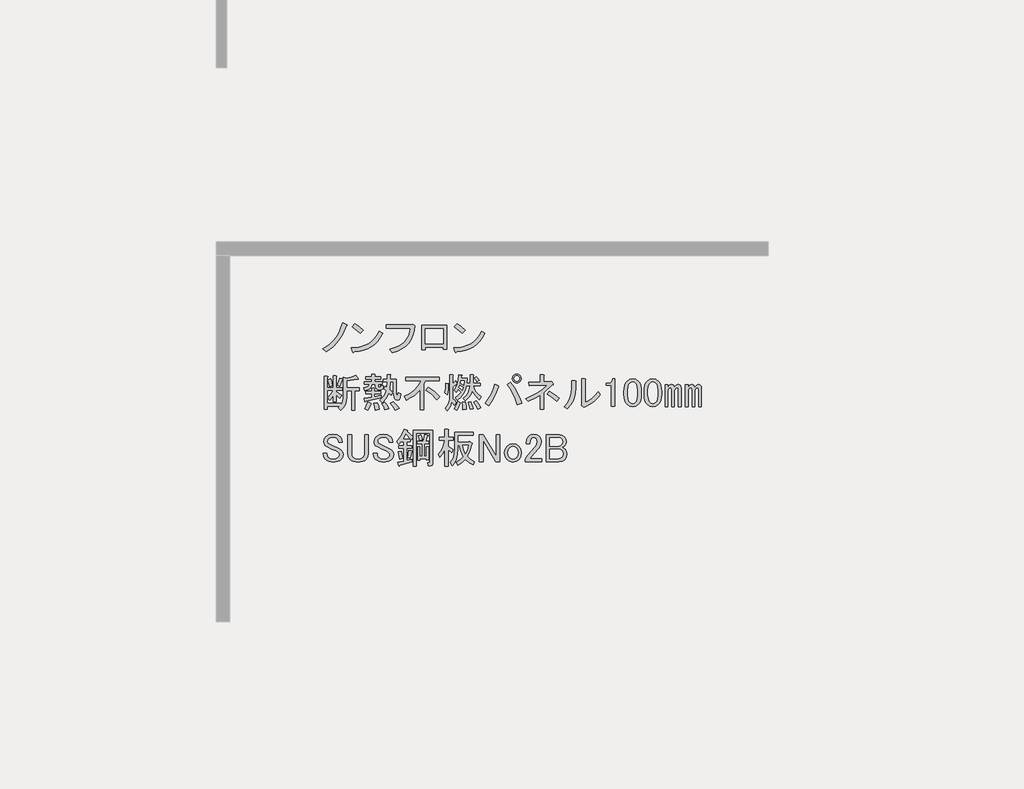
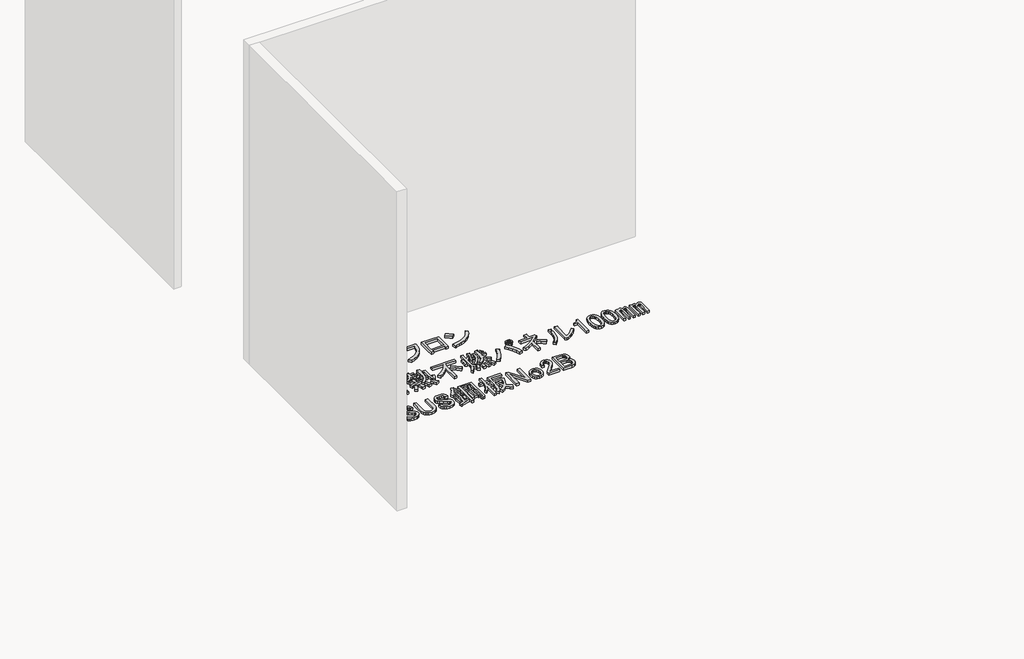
# One storey, part 25 of 117: 1 proxy.
"""IFC4 building model written with IfcOpenShell, lengths in millimetres."""

import ifcopenshell
import ifcopenshell.guid

model = None  # the IFC model being written
_history = None  # IfcOwnerHistory: only IFC2X3 demands one
_inside = {}  # id of a spatial element -> (the spatial element, [elements in it])
_under = {}  # id of a project, library or spatial element -> (it, [spatial elements below it])
_declared = {}  # id of a project -> (the project, [libraries it declares])
_typed = {}  # id of a type object -> (the type object, [elements of that type])
_made_of = {}  # id of a material, layer set ... -> (it, [elements and type objects made of it])


def new_model(schema):
    """Start an empty IFC model of exactly this schema.

    Asked for "IFC4X3", IfcOpenShell would pick the latest addendum, in which some entities
    have other attributes; the version numbers below select the first issue.
    IFC2X3 requires an IfcOwnerHistory on every rooted entity: one is made here for all.
    """
    global model, _history
    if schema == "IFC4X3":
        model = ifcopenshell.file(schema_version=(4, 3, 0, 0))
    else:
        model = ifcopenshell.file(schema=schema)
    _inside.clear()
    _under.clear()
    _declared.clear()
    _typed.clear()
    _made_of.clear()
    _history = None
    if model.schema == "IFC2X3":
        org = make("IfcOrganization", Name="unknown")
        user = make(
            "IfcPersonAndOrganization",
            ThePerson=make("IfcPerson", FamilyName="unknown"),
            TheOrganization=org,
        )
        app = make(
            "IfcApplication",
            ApplicationDeveloper=org,
            Version="unknown",
            ApplicationFullName="unknown",
            ApplicationIdentifier="unknown",
        )
        _history = make(
            "IfcOwnerHistory",
            OwningUser=user,
            OwningApplication=app,
            ChangeAction="ADDED",
            CreationDate=0,
        )
    return model


def make(cls, **values):
    """One entity of the class cls with the attributes given. An attribute that is None is left unset."""
    return model.create_entity(
        cls, **{name: value for name, value in values.items() if value is not None}
    )


def rooted(cls, **values):
    """An entity with a GlobalId (a new one), such as an element, a storey or a relation."""
    return make(cls, GlobalId=ifcopenshell.guid.new(), OwnerHistory=_history, **values)


def si_unit(unit_type, name, prefix=None):
    """IfcSIUnit, for example si_unit("LENGTHUNIT", "METRE", prefix="MILLI")."""
    return make("IfcSIUnit", UnitType=unit_type, Prefix=prefix, Name=name)


def assignment(units):
    """IfcUnitAssignment: the units of a project."""
    return None if units is None else make("IfcUnitAssignment", Units=units)


def point(xyz):
    """IfcCartesianPoint."""
    return None if xyz is None else make("IfcCartesianPoint", Coordinates=xyz)


def direction(xyz):
    """IfcDirection."""
    return None if xyz is None else make("IfcDirection", DirectionRatios=xyz)


def frame(location, z_axis=None, x_axis=None):
    """IfcAxis2Placement3D, a coordinate frame: its origin and axes. An axis left out is left unset."""
    return make(
        "IfcAxis2Placement3D",
        Location=point(location),
        Axis=direction(z_axis),
        RefDirection=direction(x_axis),
    )


def origin():
    """The frame at (0, 0, 0) with its axes left unset."""
    return frame((0.0, 0.0, 0.0))


def place(relative_to, where):
    """IfcLocalPlacement: puts the frame where relative to a parent placement (None: the world)."""
    return make(
        "IfcLocalPlacement", PlacementRelTo=relative_to, RelativePlacement=where
    )


def context(
    kind, dimensions, precision=None, world=None, true_north=None, identifier=None
):
    """IfcGeometricRepresentationContext, for example the 3D "Model" context."""
    return make(
        "IfcGeometricRepresentationContext",
        ContextIdentifier=identifier,
        ContextType=kind,
        CoordinateSpaceDimension=dimensions,
        Precision=precision,
        WorldCoordinateSystem=world,
        TrueNorth=true_north,
    )


def project(units=None, contexts=None):
    """IfcProject with its units and contexts."""
    return rooted(
        "IfcProject",
        Name="project",
        RepresentationContexts=contexts,
        UnitsInContext=assignment(units),
    )


def spatial(cls, under=None, at=None, **own):
    """A site, building, storey or space (cls), placed at a placement, below another one or the project."""
    s = rooted(cls, ObjectPlacement=at, **own)
    if under is not None:
        _under.setdefault(under.id(), (under, []))[1].append(s)
    return s


def polyline(points):
    """IfcPolyline through the points."""
    return make("IfcPolyline", Points=[point(p) for p in points])


def outline(outer, holes=None, kind="AREA"):
    """IfcArbitraryClosedProfileDef: a profile drawn as a closed curve; with holes, ...WithVoids."""
    if holes is None:
        return make("IfcArbitraryClosedProfileDef", ProfileType=kind, OuterCurve=outer)
    return make(
        "IfcArbitraryProfileDefWithVoids",
        ProfileType=kind,
        OuterCurve=outer,
        InnerCurves=holes,
    )


def extrude(swept, where, along, depth):
    """IfcExtrudedAreaSolid: the profile swept, set in the frame where, extruded along a direction by depth."""
    return make(
        "IfcExtrudedAreaSolid",
        SweptArea=swept,
        Position=where,
        ExtrudedDirection=direction(along),
        Depth=depth,
    )


def shape(context_of_items, identifier, shape_type, items):
    """IfcShapeRepresentation: the items that make up one representation, for example the "Body"."""
    return make(
        "IfcShapeRepresentation",
        ContextOfItems=context_of_items,
        RepresentationIdentifier=identifier,
        RepresentationType=shape_type,
        Items=items,
    )


def made_of(thing, what):
    """Note that an element or type object is made of a material, layer set ...; save() writes the relation."""
    if what is not None:
        _made_of.setdefault(what.id(), (what, []))[1].append(thing)
    return thing


def element(
    cls,
    number,
    at=None,
    inside=None,
    cuts=None,
    type_object=None,
    material=None,
    context=None,
    identifier="Body",
    shape_type=None,
    held_by="IfcProductDefinitionShape",
    body=None,
    shapes=None,
    **own,
):
    """One element of the class cls, such as IfcWall. Its Tag is "e" and its number.

    at: its placement. inside: the storey or other place that contains it. cuts: it is an
    opening in that element (IfcRelVoidsElement). A single representation is given by context,
    identifier, shape_type and body (its items); several are given by shapes. held_by: the class
    of the entity that holds the representations. save() writes the other relations.
    """
    e = rooted(cls, Tag="e%d" % number, ObjectPlacement=at, **own)
    if body is not None:
        shapes = [shape(context, identifier, shape_type, body)]
    if shapes is not None:
        e.Representation = make(held_by, Representations=shapes)
    if inside is not None:
        _inside.setdefault(inside.id(), (inside, []))[1].append(e)
    if cuts is not None:
        rooted(
            "IfcRelVoidsElement", RelatingBuildingElement=cuts, RelatedOpeningElement=e
        )
    if type_object is not None:
        _typed.setdefault(type_object.id(), (type_object, []))[1].append(e)
    return made_of(e, material)


def aggregate(whole, parts):
    """IfcRelAggregates: a whole, such as a stair, and the parts it consists of."""
    return rooted("IfcRelAggregates", RelatingObject=whole, RelatedObjects=parts)


def save(model, path):
    """Write the relations noted so far, then the file.

    IfcRelAggregates (storeys below a building ...), IfcRelContainedInSpatialStructure (elements
    in a storey), IfcRelDefinesByType, IfcRelAssociatesMaterial and IfcRelDeclares: one each for
    every whole, place, type object, material and project.
    """
    for whole, parts in _under.values():
        aggregate(whole, parts)
    for where, things in _inside.values():
        rooted(
            "IfcRelContainedInSpatialStructure",
            RelatedElements=things,
            RelatingStructure=where,
        )
    for kind, things in _typed.values():
        rooted("IfcRelDefinesByType", RelatedObjects=things, RelatingType=kind)
    for what, things in _made_of.values():
        rooted("IfcRelAssociatesMaterial", RelatedObjects=things, RelatingMaterial=what)
    for by, libraries in _declared.values():
        rooted("IfcRelDeclares", RelatingContext=by, RelatedDefinitions=libraries)
    model.write(path)


model = new_model("IFC4")

# Units and contexts
model_context = context("Model", 3, world=origin())
ifc_project = project(units=[si_unit("LENGTHUNIT", "METRE", prefix="MILLI")], contexts=[model_context])

# Site, building, storey
site = spatial("IfcSite", under=ifc_project)
building = spatial("IfcBuilding", under=site)
storey = spatial("IfcBuildingStorey", under=building, Name="レベル 1", Elevation=500.0)

# Proxy
placement = place(None, origin())
element("IfcBuildingElementProxy", 1, Name="200㎜\u3000MS Pゴシック", ObjectType="200㎜\u3000MS Pゴシック", at=placement, inside=storey, context=model_context, shape_type="SweptSolid", body=[
    extrude(outline(polyline([(8943.6706985, -32607.0496882), (8918.0952502, -32666.8215225), (8889.646156, -32712.7998566), (8847.9782907, -32758.2034615), (8798.8389462, -32795.560858), (8771.2519457, -32773.7211493), (8818.9544673, -32743.2605029), (8858.6107805, -32704.7536481), (8875.9963381, -32680.8305462), (8891.3703435, -32652.7406577), (8904.7327969, -32620.4839827), (8916.0836981, -32584.0605212), (8947.1190736, -32597.8540214), (8950.2800841, -32602.4518548), (8943.6706985, -32607.0496882)])), frame((0.0, 0.0, 500.0), z_axis=(0.0, 0.0, 1.0), x_axis=(1.0, 0.0, 0.0)), (0.0, 0.0, 1.0), 25.0),
    extrude(outline(polyline([(9043.3977052, -32662.2236891), (8984.7753292, -32615.0958967), (9004.3161212, -32590.9572713), (9031.6157571, -32610.7854279), (9065.2374138, -32640.3839804), (9043.3977052, -32662.2236891)])), frame((0.0, 0.0, 500.0), z_axis=(0.0, 0.0, 1.0), x_axis=(1.0, 0.0, 0.0)), (0.0, 0.0, 1.0), 25.0),
    extrude(outline(polyline([(9205.4713328, -32662.2236891), (9188.947869, -32691.965924), (9169.8381239, -32717.9724192), (9148.1420975, -32740.2431748), (9123.8597898, -32758.7781907), (9096.9912008, -32773.577467), (9067.5363306, -32784.6410036), (9035.495179, -32791.9688006), (9000.8677461, -32795.560858), (8995.1204544, -32803.6070664), (8989.3731626, -32797.8597747), (8980.1774958, -32767.9738575), (9016.0082679, -32765.2977748), (9048.7857912, -32758.9937141), (9078.5100658, -32749.0616756), (9105.1810916, -32735.5016591), (9128.7988687, -32718.3136646), (9149.363397, -32697.4976923), (9166.8746766, -32673.053742), (9181.3327074, -32644.9818138), (9205.4713328, -32662.2236891)])), frame((0.0, 0.0, 500.0), z_axis=(0.0, 0.0, 1.0), x_axis=(1.0, 0.0, 0.0)), (0.0, 0.0, 1.0), 25.0),
    extrude(outline(polyline([(9256.2314136, -32777.1695243), (9290.014713, -32767.4889298), (9319.5234641, -32755.1142922), (9344.757667, -32740.0456116), (9365.7173217, -32722.282888), (9382.402428, -32701.8261214), (9394.8129862, -32678.6753118), (9402.9489961, -32652.8304591), (9406.8104577, -32624.2915635), (9234.3917049, -32624.2915635), (9234.3917049, -32599.0034798), (9409.1093744, -32599.0034798), (9425.2017914, -32595.5551047), (9437.8458332, -32607.0496882), (9434.325617, -32643.5449909), (9426.0638851, -32676.5919185), (9413.0606375, -32706.1904711), (9395.3158742, -32732.3406486), (9372.8295952, -32755.042451), (9345.6018005, -32774.2958784), (9313.6324901, -32790.1009308), (9276.921664, -32802.4576081), (9256.2314136, -32777.1695243)])), frame((0.0, 0.0, 500.0), z_axis=(0.0, 0.0, 1.0), x_axis=(1.0, 0.0, 0.0)), (0.0, 0.0, 1.0), 25.0),
    extrude(outline(polyline([(9670.955987, -32776.020066), (9644.5184449, -32776.020066), (9644.5184449, -32763.3760241), (9516.9285679, -32763.3760241), (9516.9285679, -32781.7673577), (9490.4910258, -32781.7673577), (9490.4910258, -32602.4518548), (9670.955987, -32602.4518548), (9670.955987, -32776.020066)]), holes=[polyline([(9516.9285679, -32627.7399386), (9516.9285679, -32738.0879404), (9644.5184449, -32738.0879404), (9644.5184449, -32627.7399386), (9516.9285679, -32627.7399386)])]), frame((0.0, 0.0, 500.0), z_axis=(0.0, 0.0, 1.0), x_axis=(1.0, 0.0, 0.0)), (0.0, 0.0, 1.0), 25.0),
    extrude(outline(polyline([(9947.0099049, -32662.2236891), (9930.4864411, -32691.965924), (9911.376696, -32717.9724192), (9889.6806696, -32740.2431748), (9865.3983619, -32758.7781907), (9838.5297729, -32773.577467), (9809.0749026, -32784.6410036), (9777.0337511, -32791.9688006), (9742.4063182, -32795.560858), (9736.6590264, -32803.6070664), (9730.9117347, -32797.8597747), (9721.7160679, -32767.9738575), (9757.5468399, -32765.2977748), (9790.3243633, -32758.9937141), (9820.0486378, -32749.0616756), (9846.7196637, -32735.5016591), (9870.3374407, -32718.3136646), (9890.9019691, -32697.4976923), (9908.4132486, -32673.053742), (9922.8712795, -32644.9818138), (9947.0099049, -32662.2236891)])), frame((0.0, 0.0, 500.0), z_axis=(0.0, 0.0, 1.0), x_axis=(1.0, 0.0, 0.0)), (0.0, 0.0, 1.0), 25.0),
    extrude(outline(polyline([(9784.9362772, -32662.2236891), (9726.3139013, -32615.0958967), (9745.8546933, -32590.9572713), (9773.1543291, -32610.7854279), (9806.7759859, -32640.3839804), (9784.9362772, -32662.2236891)])), frame((0.0, 0.0, 500.0), z_axis=(0.0, 0.0, 1.0), x_axis=(1.0, 0.0, 0.0)), (0.0, 0.0, 1.0), 25.0),
    extrude(outline(polyline([(8877.0021141, -33039.2345221), (8894.2439894, -32986.3594379), (8914.9342397, -32992.1067296), (8916.6584273, -32995.2677401), (8912.635323, -32997.8540214), (8895.3934477, -33046.1312722), (8877.0021141, -33039.2345221)])), frame((0.0, 0.0, 500.0), z_axis=(0.0, 0.0, 1.0), x_axis=(1.0, 0.0, 0.0)), (0.0, 0.0, 1.0), 25.0),
    extrude(outline(polyline([(9031.0295333, -32990.9572713), (9029.3053458, -32995.5551047), (9021.8338665, -32993.256188), (8944.8201569, -33005.9002299), (8944.8201569, -33055.326939), (9036.7768251, -33055.326939), (9036.7768251, -33077.1666477), (9005.7414495, -33077.1666477), (9005.7414495, -33217.4005666), (8982.7522825, -33217.4005666), (8982.7522825, -33077.1666477), (8944.8201569, -33077.1666477), (8944.8201569, -33126.5933568), (8942.2338756, -33154.3958807), (8934.4750317, -33179.1810764), (8921.5436253, -33200.948944), (8903.4396562, -33219.6994833), (8886.1977809, -33200.1586914), (8896.5429061, -33190.9630245), (8806.8851546, -33190.9630245), (8806.8851546, -33212.8027332), (8783.8959876, -33212.8027332), (8783.8959876, -32973.715396), (8805.7356963, -32973.715396), (8810.6208943, -32976.0143127), (8806.8851546, -32980.6121461), (8806.8851546, -33056.4763974), (8849.4151137, -33056.4763974), (8849.4151137, -32969.1175626), (8867.8064473, -32969.1175626), (8872.6916453, -32971.4164793), (8868.9559057, -32976.0143127), (8868.9559057, -33056.4763974), (8912.635323, -33056.4763974), (8912.635323, -33074.867731), (8868.9559057, -33074.867731), (8868.9559057, -33084.0633978), (8909.186948, -33110.5009399), (8895.3934477, -33132.3406486), (8868.9559057, -33105.9031065), (8868.9559057, -33158.7781907), (8849.4151137, -33158.7781907), (8849.4151137, -33110.5009399), (8836.1963426, -33130.3290965), (8821.8281132, -33146.1341488), (8809.1840713, -33127.7428152), (8831.02378, -33103.6041898), (8848.2656553, -33074.867731), (8806.8851546, -33074.867731), (8806.8851546, -33169.1233159), (8904.5891146, -33169.1233159), (8904.5891146, -33182.9168161), (8917.520521, -33158.7781907), (8921.8309898, -33125.4438985), (8921.8309898, -32980.6121461), (8943.6706985, -32986.3594379), (8979.8786366, -32978.8879586), (9010.339283, -32965.6691875), (9031.0295333, -32990.9572713)])), frame((0.0, 0.0, 500.0), z_axis=(0.0, 0.0, 1.0), x_axis=(1.0, 0.0, 0.0)), (0.0, 0.0, 1.0), 25.0),
    extrude(outline(polyline([(8822.9775716, -33047.2807305), (8810.3335297, -32996.7045631), (8829.8743217, -32989.8078129), (8837.6331656, -33013.9464383), (8842.5183636, -33040.3839804), (8822.9775716, -33047.2807305)])), frame((0.0, 0.0, 500.0), z_axis=(0.0, 0.0, 1.0), x_axis=(1.0, 0.0, 0.0)), (0.0, 0.0, 1.0), 25.0),
    extrude(outline(polyline([(9121.8367431, -33167.9738575), (9125.2851182, -33172.8590555), (9119.5378264, -33176.020066), (9109.7674304, -33201.5955143), (9098.8475761, -33220.8489417), (9075.858409, -33209.3543582), (9088.5024509, -33185.790462), (9098.8475761, -33158.7781907), (9121.8367431, -33167.9738575)])), frame((0.0, 0.0, 500.0), z_axis=(0.0, 0.0, 1.0), x_axis=(1.0, 0.0, 0.0)), (0.0, 0.0, 1.0), 25.0),
    extrude(outline(polyline([(9166.6656188, -33163.3760241), (9176.7233794, -33190.67566), (9181.6085774, -33212.8027332), (9152.8721186, -33218.550025), (9150.2858373, -33196.9976809), (9142.5269934, -33166.8243992), (9166.6656188, -33163.3760241)])), frame((0.0, 0.0, 500.0), z_axis=(0.0, 0.0, 1.0), x_axis=(1.0, 0.0, 0.0)), (0.0, 0.0, 1.0), 25.0),
    extrude(outline(polyline([(9281.611454, -33157.6287323), (9306.3248086, -33178.8937119), (9325.2908714, -33203.6070664), (9298.8533293, -33218.550025), (9279.5999019, -33188.9514724), (9260.9212037, -33169.1233159), (9281.611454, -33157.6287323)])), frame((0.0, 0.0, 500.0), z_axis=(0.0, 0.0, 1.0), x_axis=(1.0, 0.0, 0.0)), (0.0, 0.0, 1.0), 25.0),
    extrude(outline(polyline([(9222.9890781, -33216.2511083), (9214.655505, -33191.5377537), (9201.1493694, -33170.2727742), (9221.8396197, -33162.2265657), (9238.7941304, -33183.7789098), (9250.5760785, -33207.0554415), (9222.9890781, -33216.2511083)])), frame((0.0, 0.0, 500.0), z_axis=(0.0, 0.0, 1.0), x_axis=(1.0, 0.0, 0.0)), (0.0, 0.0, 1.0), 25.0),
    extrude(outline(polyline([(9083.9046175, -33153.0308989), (9081.8930654, -33157.9160969), (9078.1573257, -33156.479274), (9072.410034, -33132.3406486), (9127.5840349, -33124.2944401), (9127.5840349, -33101.3052731), (9083.9046175, -33101.3052731), (9083.9046175, -33082.9139395), (9127.5840349, -33082.9139395), (9127.5840349, -33059.9247724), (9145.9753685, -33059.9247724), (9150.8605665, -33062.2236891), (9147.1248268, -33066.8215225), (9147.1248268, -33082.9139395), (9191.9537026, -33082.9139395), (9191.9537026, -33101.3052731), (9147.1248268, -33101.3052731), (9147.1248268, -33120.8460651), (9197.7009943, -33111.6503983), (9197.7009943, -33127.7428152), (9083.9046175, -33153.0308989)])), frame((0.0, 0.0, 500.0), z_axis=(0.0, 0.0, 1.0), x_axis=(1.0, 0.0, 0.0)), (0.0, 0.0, 1.0), 25.0),
    extrude(outline(polyline([(9154.021577, -33031.1883136), (9128.7334932, -33031.1883136), (9124.1356598, -33048.6457123), (9113.7905346, -33061.9363245), (9097.6981177, -33071.0601502), (9075.858409, -33076.0171893), (9071.2605756, -33056.4763974), (9096.5486594, -33047.8554597), (9104.0201386, -33040.5276627), (9108.0432429, -33031.1883136), (9072.410034, -33031.1883136), (9072.410034, -33012.79698), (9126.4345765, -33012.79698), (9126.4345765, -32995.5551047), (9082.7551591, -32995.5551047), (9082.7551591, -32977.1637711), (9126.4345765, -32977.1637711), (9126.4345765, -32958.7724374), (9148.2742852, -32958.7724374), (9153.1594832, -32961.0713541), (9149.4237436, -32965.6691875), (9149.4237436, -32977.1637711), (9191.9537026, -32977.1637711), (9191.9537026, -32995.5551047), (9149.4237436, -32995.5551047), (9149.4237436, -33012.79698), (9202.2988277, -33012.79698), (9202.2988277, -33031.1883136), (9173.5623689, -33031.1883136), (9173.5623689, -33043.8323555), (9174.9991919, -33049.0049181), (9179.3096607, -33050.7291056), (9189.6547859, -33050.7291056), (9193.3905255, -33047.5680951), (9193.1031609, -33038.0850637), (9212.6439529, -33040.3839804), (9209.770307, -33061.9363245), (9204.4540622, -33067.3244106), (9196.551536, -33069.1204392), (9172.4129106, -33069.1204392), (9158.6194104, -33064.2352412), (9154.021577, -33049.5796472), (9154.021577, -33031.1883136)])), frame((0.0, 0.0, 500.0), z_axis=(0.0, 0.0, 1.0), x_axis=(1.0, 0.0, 0.0)), (0.0, 0.0, 1.0), 25.0),
    extrude(outline(polyline([(9285.0598291, -33013.9464383), (9263.2201204, -33013.9464383), (9258.622287, -33071.4193559), (9278.163079, -33089.8106896), (9267.8179538, -33111.6503983), (9251.7255369, -33095.5579813), (9232.4721095, -33133.2027424), (9202.2988277, -33165.6749408), (9185.0569525, -33144.9846905), (9200.1435933, -33133.0590601), (9213.2186821, -33117.9724192), (9224.2822187, -33099.7247679), (9233.3342033, -33078.316106), (9216.092328, -33063.3731475), (9224.1385364, -33046.1312722), (9237.9320367, -33056.4763974), (9240.2309534, -33013.9464383), (9212.6439529, -33013.9464383), (9212.6439529, -32995.5551047), (9240.2309534, -32995.5551047), (9240.2309534, -32961.0713541), (9262.0706621, -32961.0713541), (9266.95586, -32963.3702708), (9263.2201204, -32967.9681043), (9263.2201204, -32995.5551047), (9304.6006211, -32995.5551047), (9304.6006211, -33092.1096063), (9308.0489961, -33116.2482317), (9311.2818477, -33118.2597838), (9314.0836525, -33115.0987733), (9318.3941213, -33093.2590646), (9337.9349133, -33100.1558147), (9333.408921, -33126.9525626), (9325.578236, -33142.9731384), (9314.4428582, -33148.2175421), (9300.0027877, -33142.6857738), (9293.4652433, -33135.3579768), (9288.7955687, -33123.719711), (9285.0598291, -33087.5117729), (9285.0598291, -33013.9464383)])), frame((0.0, 0.0, 500.0), z_axis=(0.0, 0.0, 1.0), x_axis=(1.0, 0.0, 0.0)), (0.0, 0.0, 1.0), 25.0),
    extrude(outline(polyline([(9373.5681222, -32980.6121461), (9614.9543761, -32980.6121461), (9614.9543761, -33005.9002299), (9514.9514995, -33005.9002299), (9504.6063743, -33030.0388553), (9504.6063743, -33216.2511083), (9478.1688322, -33216.2511083), (9478.1688322, -33069.1204392), (9457.3348996, -33092.3969709), (9433.9146857, -33112.7998566), (9407.9081905, -33130.3290965), (9379.315414, -33144.9846905), (9363.222997, -33118.5471484), (9402.807469, -33098.1442626), (9436.500967, -33072.5688143), (9464.3034909, -33041.8208034), (9486.2150407, -33005.9002299), (9373.5681222, -33005.9002299), (9373.5681222, -32980.6121461)])), frame((0.0, 0.0, 500.0), z_axis=(0.0, 0.0, 1.0), x_axis=(1.0, 0.0, 0.0)), (0.0, 0.0, 1.0), 25.0),
    extrude(outline(polyline([(9600.0114176, -33141.5363154), (9560.9298336, -33103.3168252), (9519.5493329, -33073.7182726), (9535.6417498, -33053.0280223), (9579.3211672, -33081.1897519), (9620.7016679, -33119.6966067), (9600.0114176, -33141.5363154)])), frame((0.0, 0.0, 500.0), z_axis=(0.0, 0.0, 1.0), x_axis=(1.0, 0.0, 0.0)), (0.0, 0.0, 1.0), 25.0),
    extrude(outline(polyline([(9767.832337, -33163.3760241), (9759.2113993, -33193.8366704), (9744.8431699, -33220.8489417), (9725.3023779, -33208.2048998), (9739.3832427, -33183.4915453), (9749.4410033, -33155.3298156), (9767.832337, -33163.3760241)])), frame((0.0, 0.0, 500.0), z_axis=(0.0, 0.0, 1.0), x_axis=(1.0, 0.0, 0.0)), (0.0, 0.0, 1.0), 25.0),
    extrude(outline(polyline([(9682.7724189, -33025.4410219), (9687.3702523, -33027.7399386), (9682.7724189, -33032.337772), (9681.6229605, -33071.9940851), (9675.8756688, -33105.9031065), (9657.4843352, -33093.2590646), (9663.2316269, -33058.7753141), (9664.3810853, -33021.9926468), (9682.7724189, -33025.4410219)])), frame((0.0, 0.0, 500.0), z_axis=(0.0, 0.0, 1.0), x_axis=(1.0, 0.0, 0.0)), (0.0, 0.0, 1.0), 25.0),
    extrude(outline(polyline([(9734.4980447, -33007.0496882), (9743.6937116, -33024.2915635), (9745.1305345, -33030.3262199), (9740.2453365, -33030.0388553), (9713.8077944, -33050.7291056), (9713.8077944, -33134.6395653), (9727.6012946, -33146.9962426), (9739.0958781, -33163.3760241), (9726.4518363, -33184.0662744), (9708.0605026, -33158.7781907), (9696.2785545, -33194.6987642), (9674.7262104, -33224.2973168), (9659.7832519, -33205.9059831), (9674.8698927, -33187.1554438), (9685.6460648, -33166.5370346), (9692.111768, -33144.0507556), (9694.2670024, -33119.6966067), (9694.2670024, -32962.2208125), (9712.6583361, -32962.2208125), (9717.543534, -32964.5197292), (9713.8077944, -32969.1175626), (9713.8077944, -33027.7399386), (9734.4980447, -33007.0496882)])), frame((0.0, 0.0, 500.0), z_axis=(0.0, 0.0, 1.0), x_axis=(1.0, 0.0, 0.0)), (0.0, 0.0, 1.0), 25.0),
    extrude(outline(polyline([(9885.0770889, -32976.0143127), (9906.9167975, -33000.1529381), (9889.6749223, -33011.6475216), (9883.0655367, -33000.1529381), (9870.1341303, -32986.3594379), (9885.0770889, -32976.0143127)])), frame((0.0, 0.0, 500.0), z_axis=(0.0, 0.0, 1.0), x_axis=(1.0, 0.0, 0.0)), (0.0, 0.0, 1.0), 25.0),
    extrude(outline(polyline([(9895.422214, -33212.8027332), (9882.203443, -33184.6410036), (9865.5362969, -33159.927649), (9883.9276305, -33151.8814406), (9902.8936933, -33174.8706076), (9918.4113811, -33202.4576081), (9895.422214, -33212.8027332)])), frame((0.0, 0.0, 500.0), z_axis=(0.0, 0.0, 1.0), x_axis=(1.0, 0.0, 0.0)), (0.0, 0.0, 1.0), 25.0),
    extrude(outline(polyline([(9845.9955049, -33157.6287323), (9864.3868385, -33207.0554415), (9840.2482131, -33211.6532749), (9826.4547129, -33161.0771074), (9845.9955049, -33157.6287323)])), frame((0.0, 0.0, 500.0), z_axis=(0.0, 0.0, 1.0), x_axis=(1.0, 0.0, 0.0)), (0.0, 0.0, 1.0), 25.0),
    extrude(outline(polyline([(9787.3731289, -33215.1016499), (9787.9478581, -33188.0893787), (9785.0742122, -33159.927649), (9804.6150042, -33158.7781907), (9810.9370252, -33184.9283682), (9811.5117543, -33212.8027332), (9787.3731289, -33215.1016499)])), frame((0.0, 0.0, 500.0), z_axis=(0.0, 0.0, 1.0), x_axis=(1.0, 0.0, 0.0)), (0.0, 0.0, 1.0), 25.0),
    extrude(outline(polyline([(9906.9167975, -33142.6857738), (9876.1687866, -33112.2251274), (9855.1911717, -33078.316106), (9846.7857575, -33100.4431793), (9835.3630151, -33119.6966067), (9820.9229446, -33136.0763882), (9803.4655459, -33149.5825239), (9789.6720456, -33131.1911902), (9810.5059783, -33112.2969686), (9825.8799837, -33091.2475125), (9835.794062, -33068.042822), (9840.2482131, -33042.6828971), (9811.5117543, -33042.6828971), (9803.537387, -33073.2872258), (9789.9594102, -33100.7305439), (9770.777824, -33125.0128516), (9745.9926283, -33146.1341488), (9733.3485864, -33130.0417319), (9759.2113993, -33108.4893878), (9774.7290871, -33087.5117729), (9752.8893784, -33067.9709809), (9739.0958781, -33088.6612312), (9725.3023779, -33073.7182726), (9737.7308964, -33054.6803687), (9747.4294512, -33029.7514907), (9754.3980425, -32998.9316386), (9758.6366701, -32962.2208125), (9779.3269205, -32964.5197292), (9782.7752955, -32967.1060105), (9777.0280038, -32970.267021), (9774.7290871, -32988.6583546), (9818.4085044, -32988.6583546), (9814.9601294, -33024.2915635), (9840.2482131, -33024.2915635), (9840.2482131, -32962.2208125), (9862.0879218, -32962.2208125), (9866.9731198, -32964.5197292), (9863.2373802, -32969.1175626), (9863.2373802, -33024.2915635), (9912.6640893, -33024.2915635), (9912.6640893, -33042.6828971), (9863.2373802, -33042.6828971), (9869.7749245, -33064.4507647), (9881.3413492, -33084.9254916), (9897.9366542, -33104.1070778), (9919.5608394, -33121.9955234), (9906.9167975, -33142.6857738)]), holes=[polyline([(9782.7752955, -33072.5688143), (9789.6720456, -33053.0280223), (9764.3839619, -33036.9356054), (9758.6366701, -33054.1774807), (9782.7752955, -33072.5688143)]), polyline([(9772.4301704, -33007.0496882), (9768.9817953, -33023.1421052), (9794.269879, -33036.9356054), (9798.8677125, -33007.0496882), (9772.4301704, -33007.0496882)])]), frame((0.0, 0.0, 500.0), z_axis=(0.0, 0.0, 1.0), x_axis=(1.0, 0.0, 0.0)), (0.0, 0.0, 1.0), 25.0),
    extrude(outline(polyline([(10132.2106345, -33016.245355), (10158.8637001, -33052.9561812), (10181.3499791, -33090.6727833), (10199.6694716, -33129.3951616), (10213.8221775, -33169.1233159), (10182.786802, -33179.468441), (10167.3409554, -33136.3637528), (10149.7398744, -33097.856898), (10129.983559, -33063.9478766), (10108.0720092, -33034.6366887), (10132.2106345, -33016.245355)])), frame((0.0, 0.0, 500.0), z_axis=(0.0, 0.0, 1.0), x_axis=(1.0, 0.0, 0.0)), (0.0, 0.0, 1.0), 25.0),
    extrude(outline(polyline([(10044.8517998, -33042.6828971), (10048.874904, -33048.1428243), (10042.5528831, -33053.0280223), (10030.6272527, -33088.4457078), (10015.5406118, -33122.282888), (9997.2929605, -33154.539563), (9975.8842987, -33185.2157328), (9949.4467566, -33167.9738575), (9972.6514471, -33136.5074351), (9991.689351, -33103.0294606), (10006.5604684, -33067.539934), (10017.2647993, -33030.0388553), (10044.8517998, -33042.6828971)])), frame((0.0, 0.0, 500.0), z_axis=(0.0, 0.0, 1.0), x_axis=(1.0, 0.0, 0.0)), (0.0, 0.0, 1.0), 25.0),
    extrude(outline(polyline([(10178.1889686, -33021.9926468), (10165.5449268, -33019.6937301), (10155.1998016, -33012.79698), (10148.3030515, -33002.4518548), (10146.0041348, -32989.8078129), (10148.3030515, -32977.1637711), (10155.1998016, -32966.8186459), (10165.5449268, -32959.9218958), (10178.1889686, -32957.6229791), (10190.8330105, -32959.9218958), (10201.1781357, -32966.8186459), (10208.0748858, -32977.1637711), (10210.3738025, -32989.8078129), (10208.0748858, -33002.4518548), (10201.1781357, -33012.79698), (10190.8330105, -33019.6937301), (10178.1889686, -33021.9926468)]), holes=[polyline([(10178.1889686, -33010.4980633), (10186.5225417, -33009.0612403), (10193.1319272, -33004.7507715), (10197.442396, -32998.141386), (10198.879219, -32989.8078129), (10197.442396, -32981.4742399), (10193.1319272, -32974.8648544), (10186.5225417, -32970.5543855), (10178.1889686, -32969.1175626), (10169.8553956, -32970.5543855), (10163.2460101, -32974.8648544), (10158.9355412, -32981.4742399), (10157.4987183, -32989.8078129), (10158.9355412, -32998.141386), (10163.2460101, -33004.7507715), (10169.8553956, -33009.0612403), (10178.1889686, -33010.4980633)])]), frame((0.0, 0.0, 500.0), z_axis=(0.0, 0.0, 1.0), x_axis=(1.0, 0.0, 0.0)), (0.0, 0.0, 1.0), 25.0),
    extrude(outline(polyline([(10421.8741393, -33011.6475216), (10428.7708894, -33009.3486049), (10441.4149312, -33026.5904802), (10442.5643896, -33032.6251366), (10436.8170978, -33034.6366887), (10373.5968885, -33090.9601479), (10373.5968885, -33211.6532749), (10347.1593464, -33211.6532749), (10347.1593464, -33109.3514816), (10306.9283041, -33133.4901069), (10262.0994283, -33155.3298156), (10242.5586363, -33134.6395653), (10288.1059235, -33115.1706145), (10329.3427419, -33092.3969709), (10366.2690915, -33066.3186345), (10398.8849722, -33036.9356054), (10268.9961784, -33042.6828971), (10265.5478034, -33017.3948134), (10347.1593464, -33015.0958967), (10347.1593464, -32963.3702708), (10370.1485134, -32963.3702708), (10376.1831698, -32966.8186459), (10373.5968885, -32972.5659377), (10373.5968885, -33013.9464383), (10421.8741393, -33011.6475216)])), frame((0.0, 0.0, 500.0), z_axis=(0.0, 0.0, 1.0), x_axis=(1.0, 0.0, 0.0)), (0.0, 0.0, 1.0), 25.0),
    extrude(outline(polyline([(10467.8524733, -33155.3298156), (10430.7824415, -33126.0186277), (10397.7355139, -33104.7536481), (10414.9773892, -33082.9139395), (10453.7716085, -33106.1904711), (10487.3932653, -33132.3406486), (10467.8524733, -33155.3298156)])), frame((0.0, 0.0, 500.0), z_axis=(0.0, 0.0, 1.0), x_axis=(1.0, 0.0, 0.0)), (0.0, 0.0, 1.0), 25.0),
    extrude(outline(polyline([(10674.8469334, -33162.2265657), (10699.6321291, -33150.0135708), (10723.4115488, -33132.9153778), (10746.1851924, -33110.9319868), (10767.9530599, -33084.0633978), (10784.0454768, -33105.9031065), (10760.7689452, -33133.7056304), (10734.6187677, -33157.3413678), (10705.5949443, -33176.8103186), (10673.697475, -33192.1124829), (10664.5018082, -33196.7103163), (10646.1104746, -33182.9168161), (10648.4093913, -33177.1695243), (10648.4093913, -32992.1067296), (10672.5480167, -32992.1067296), (10678.2953084, -32995.5551047), (10674.8469334, -33001.3023965), (10674.8469334, -33162.2265657)])), frame((0.0, 0.0, 500.0), z_axis=(0.0, 0.0, 1.0), x_axis=(1.0, 0.0, 0.0)), (0.0, 0.0, 1.0), 25.0),
    extrude(outline(polyline([(10520.8195142, -33193.2619413), (10545.9639157, -33164.0225944), (10563.9242024, -33131.4785548), (10574.7003745, -33095.6298225), (10578.2924318, -33056.4763974), (10578.2924318, -33004.7507715), (10602.4310572, -33004.7507715), (10608.178349, -33008.1991466), (10604.7299739, -33013.9464383), (10604.7299739, -33055.326939), (10600.9223931, -33101.0897496), (10589.4996507, -33141.82368), (10570.4617468, -33177.5287301), (10543.8086812, -33208.2048998), (10520.8195142, -33193.2619413)])), frame((0.0, 0.0, 500.0), z_axis=(0.0, 0.0, 1.0), x_axis=(1.0, 0.0, 0.0)), (0.0, 0.0, 1.0), 25.0),
    extrude(outline(polyline([(10863.3581031, -33015.0958967), (10871.4043116, -33004.1760423), (10874.8526866, -32992.1067296), (10888.6461869, -32992.1067296), (10888.6461869, -33190.9630245), (10862.2086448, -33190.9630245), (10862.2086448, -33038.0850637), (10827.7248942, -33038.0850637), (10827.7248942, -33024.2915635), (10838.0700194, -33024.2915635), (10852.4382488, -33021.9926468), (10863.3581031, -33015.0958967)])), frame((0.0, 0.0, 500.0), z_axis=(0.0, 0.0, 1.0), x_axis=(1.0, 0.0, 0.0)), (0.0, 0.0, 1.0), 25.0),
    extrude(outline(polyline([(10954.1653129, -33081.7644811), (10955.6021359, -33058.2005849), (10959.9126047, -33038.0850637), (10967.0967194, -33021.4179176), (10977.15448, -33008.1991466), (10995.258449, -32996.1298339), (11017.3855223, -32992.1067296), (11039.5125956, -32996.1298339), (11057.6165646, -33008.1991466), (11067.6743252, -33021.4179176), (11074.8584399, -33038.0850637), (11079.1689087, -33058.2005849), (11080.6057317, -33081.7644811), (11080.6057317, -33104.7536481), (11079.1689087, -33127.8146563), (11074.8584399, -33147.5709718), (11067.6743252, -33164.0225944), (11057.6165646, -33177.1695243), (11039.5125956, -33189.238837), (11017.3855223, -33193.2619413), (10995.258449, -33189.238837), (10977.15448, -33177.1695243), (10967.0967194, -33164.0225944), (10959.9126047, -33147.5709718), (10955.6021359, -33127.8146563), (10954.1653129, -33104.7536481), (10954.1653129, -33081.7644811)]), holes=[polyline([(11017.3855223, -33013.9464383), (11006.4656679, -33016.245355), (10996.695272, -33023.1421052), (10990.1577276, -33032.2659308), (10985.488053, -33044.6944493), (10981.7523134, -33079.4655644), (10981.7523134, -33105.9031065), (10985.7754176, -33140.0994925), (10990.8042979, -33152.6716932), (10997.8447303, -33162.2265657), (11007.3277617, -33169.1233159), (11017.3855223, -33171.4222326), (11028.3053766, -33169.1233159), (11038.0757726, -33162.2265657), (11044.613317, -33153.1027401), (11049.2829916, -33140.6742216), (11053.0187312, -33105.9031065), (11053.0187312, -33079.4655644), (11049.2829916, -33044.6944493), (11044.613317, -33032.2659308), (11038.0757726, -33023.1421052), (11028.3053766, -33016.245355), (11017.3855223, -33013.9464383)])]), frame((0.0, 0.0, 500.0), z_axis=(0.0, 0.0, 1.0), x_axis=(1.0, 0.0, 0.0)), (0.0, 0.0, 1.0), 25.0),
    extrude(outline(polyline([(11101.295982, -33081.7644811), (11102.7328049, -33058.2005849), (11107.0432737, -33038.0850637), (11114.2273884, -33021.4179176), (11124.285149, -33008.1991466), (11142.3891181, -32996.1298339), (11164.5161914, -32992.1067296), (11186.6432646, -32996.1298339), (11204.7472337, -33008.1991466), (11214.8049943, -33021.4179176), (11221.989109, -33038.0850637), (11226.2995778, -33058.2005849), (11227.7364007, -33081.7644811), (11227.7364007, -33104.7536481), (11226.2995778, -33127.8146563), (11221.989109, -33147.5709718), (11214.8049943, -33164.0225944), (11204.7472337, -33177.1695243), (11186.6432646, -33189.238837), (11164.5161914, -33193.2619413), (11142.3891181, -33189.238837), (11124.285149, -33177.1695243), (11114.2273884, -33164.0225944), (11107.0432737, -33147.5709718), (11102.7328049, -33127.8146563), (11101.295982, -33104.7536481), (11101.295982, -33081.7644811)]), holes=[polyline([(11164.5161914, -33013.9464383), (11153.596337, -33016.245355), (11143.825941, -33023.1421052), (11137.2883966, -33032.2659308), (11132.6187221, -33044.6944493), (11128.8829824, -33079.4655644), (11128.8829824, -33105.9031065), (11132.9060867, -33140.0994925), (11137.934967, -33152.6716932), (11144.9753994, -33162.2265657), (11154.4584308, -33169.1233159), (11164.5161914, -33171.4222326), (11175.4360457, -33169.1233159), (11185.2064417, -33162.2265657), (11191.7439861, -33153.1027401), (11196.4136606, -33140.6742216), (11200.1494003, -33105.9031065), (11200.1494003, -33079.4655644), (11196.4136606, -33044.6944493), (11191.7439861, -33032.2659308), (11185.2064417, -33023.1421052), (11175.4360457, -33016.245355), (11164.5161914, -33013.9464383)])]), frame((0.0, 0.0, 500.0), z_axis=(0.0, 0.0, 1.0), x_axis=(1.0, 0.0, 0.0)), (0.0, 0.0, 1.0), 25.0),
    extrude(outline(polyline([(11272.5652764, -33193.2619413), (11253.0244845, -33193.2619413), (11253.0244845, -33035.786147), (11272.5652764, -33035.786147), (11272.5652764, -33053.0280223), (11284.6345891, -33037.5103346), (11297.8533602, -33032.337772), (11307.049027, -33033.7745949), (11313.9457771, -33038.0850637), (11320.8425272, -33051.878564), (11333.7739337, -33037.22297), (11347.2800693, -33032.337772), (11355.6136424, -33033.7745949), (11362.2230279, -33038.0850637), (11367.3955905, -33046.7060014), (11369.119778, -33058.7753141), (11369.119778, -33193.2619413), (11349.578986, -33193.2619413), (11349.578986, -33069.1204392), (11346.9927047, -33059.6374078), (11339.2338609, -33056.4763974), (11328.8887357, -33061.0742308), (11322.8540793, -33069.6951684), (11320.8425272, -33079.4655644), (11320.8425272, -33193.2619413), (11301.3017352, -33193.2619413), (11301.3017352, -33069.1204392), (11298.715454, -33059.6374078), (11290.9566101, -33056.4763974), (11280.6114849, -33061.0742308), (11274.5768286, -33069.6951684), (11272.5652764, -33079.4655644), (11272.5652764, -33193.2619413)])), frame((0.0, 0.0, 500.0), z_axis=(0.0, 0.0, 1.0), x_axis=(1.0, 0.0, 0.0)), (0.0, 0.0, 1.0), 25.0),
    extrude(outline(polyline([(11494.4107384, -33032.337772), (11502.7443114, -33033.7745949), (11509.353697, -33038.0850637), (11514.5262595, -33046.7060014), (11516.2504471, -33058.7753141), (11516.2504471, -33193.2619413), (11496.7096551, -33193.2619413), (11496.7096551, -33069.1204392), (11494.1233738, -33059.6374078), (11486.3645299, -33056.4763974), (11476.0194048, -33061.0742308), (11469.9847484, -33069.6951684), (11467.9731963, -33079.4655644), (11467.9731963, -33193.2619413), (11448.4324043, -33193.2619413), (11448.4324043, -33069.1204392), (11445.846123, -33059.6374078), (11438.0872791, -33056.4763974), (11427.742154, -33061.0742308), (11421.7074976, -33069.6951684), (11419.6959455, -33079.4655644), (11419.6959455, -33193.2619413), (11400.1551535, -33193.2619413), (11400.1551535, -33035.786147), (11419.6959455, -33035.786147), (11419.6959455, -33053.0280223), (11431.7652582, -33037.5103346), (11444.9840292, -33032.337772), (11454.1796961, -33033.7745949), (11461.0764462, -33038.0850637), (11467.9731963, -33051.878564), (11480.9046028, -33037.22297), (11494.4107384, -33032.337772)])), frame((0.0, 0.0, 500.0), z_axis=(0.0, 0.0, 1.0), x_axis=(1.0, 0.0, 0.0)), (0.0, 0.0, 1.0), 25.0),
    extrude(outline(polyline([(8779.2981542, -33447.2807305), (8783.3212584, -33426.8778448), (8795.3905711, -33409.3486049), (8815.7934569, -33397.2792922), (8844.8172803, -33393.256188), (8876.1400204, -33397.8540214), (8898.8418228, -33411.6475216), (8910.9111355, -33429.1767615), (8914.9342397, -33449.5796472), (8888.4966976, -33449.5796472), (8886.1977809, -33436.9356054), (8879.3010308, -33426.5904802), (8866.0822598, -33418.8316363), (8847.116197, -33416.245355), (8826.7133112, -33418.5442717), (8813.7819048, -33425.4410219), (8807.7472484, -33434.0619595), (8805.7356963, -33443.8323555), (8810.3335297, -33458.7753141), (8831.02378, -33470.2698976), (8890.7956143, -33496.7074397), (8908.0374896, -33508.2020232), (8917.520521, -33521.9955234), (8920.6815315, -33538.0879404), (8916.6584273, -33559.3529199), (8904.5891146, -33577.1695243), (8894.6031951, -33584.7128448), (8881.8873121, -33590.1009308), (8848.2656553, -33594.4113996), (8814.6439985, -33589.238837), (8801.0660217, -33582.7731338), (8789.6432794, -33573.7211493), (8778.4360604, -33555.3298156), (8774.7003208, -33530.0417319), (8801.1378629, -33530.0417319), (8803.4367796, -33547.8583363), (8810.3335297, -33559.927649), (8826.4259466, -33569.4106804), (8849.4151137, -33572.5716909), (8870.3927286, -33569.698045), (8885.0483226, -33561.0771074), (8891.9450727, -33551.8814406), (8894.2439894, -33542.6857738), (8892.5198019, -33533.2027424), (8887.3472393, -33525.4438985), (8868.9559057, -33513.949315), (8839.0699885, -33500.1558147), (8805.7356963, -33485.2128562), (8789.6432794, -33474.867731), (8781.8844355, -33462.7984183), (8779.2981542, -33447.2807305)])), frame((0.0, 0.0, 500.0), z_axis=(0.0, 0.0, 1.0), x_axis=(1.0, 0.0, 0.0)), (0.0, 0.0, 1.0), 25.0),
    extrude(outline(polyline([(8954.7054987, -33395.5551047), (8981.1430408, -33395.5551047), (8981.1430408, -33533.4901069), (8983.7293221, -33548.1457009), (8991.488166, -33559.927649), (9007.0058537, -33569.4106804), (9028.2708332, -33572.5716909), (9049.5358128, -33569.4106804), (9065.0535005, -33559.927649), (9072.8123444, -33548.1457009), (9075.3986257, -33533.4901069), (9075.3986257, -33395.5551047), (9101.8361678, -33395.5551047), (9101.8361678, -33534.6395653), (9097.8130635, -33557.6287323), (9085.7437508, -33576.020066), (9075.2549434, -33584.0662744), (9062.1798546, -33589.8135662), (9028.2708332, -33594.4113996), (8994.3618119, -33589.8135662), (8981.2867231, -33584.0662744), (8970.7979156, -33576.020066), (8958.7286029, -33557.6287323), (8954.7054987, -33534.6395653), (8954.7054987, -33395.5551047)])), frame((0.0, 0.0, 500.0), z_axis=(0.0, 0.0, 1.0), x_axis=(1.0, 0.0, 0.0)), (0.0, 0.0, 1.0), 25.0),
    extrude(outline(polyline([(9144.1822135, -33447.2807305), (9148.2053177, -33426.8778448), (9160.2746304, -33409.3486049), (9180.6775161, -33397.2792922), (9209.7013395, -33393.256188), (9241.0240796, -33397.8540214), (9263.7258821, -33411.6475216), (9275.7951948, -33429.1767615), (9279.818299, -33449.5796472), (9253.3807569, -33449.5796472), (9251.0818402, -33436.9356054), (9244.1850901, -33426.5904802), (9230.966319, -33418.8316363), (9212.0002562, -33416.245355), (9191.5973705, -33418.5442717), (9178.665964, -33425.4410219), (9172.6313077, -33434.0619595), (9170.6197556, -33443.8323555), (9175.217589, -33458.7753141), (9195.9078393, -33470.2698976), (9255.6796736, -33496.7074397), (9272.9215489, -33508.2020232), (9282.4045803, -33521.9955234), (9285.5655908, -33538.0879404), (9281.5424865, -33559.3529199), (9269.4731738, -33577.1695243), (9259.4872544, -33584.7128448), (9246.7713714, -33590.1009308), (9213.1497146, -33594.4113996), (9179.5280578, -33589.238837), (9165.950081, -33582.7731338), (9154.5273386, -33573.7211493), (9143.3201197, -33555.3298156), (9139.5843801, -33530.0417319), (9166.0219222, -33530.0417319), (9168.3208389, -33547.8583363), (9175.217589, -33559.927649), (9191.3100059, -33569.4106804), (9214.2991729, -33572.5716909), (9235.2767879, -33569.698045), (9249.9323819, -33561.0771074), (9256.829132, -33551.8814406), (9259.1280487, -33542.6857738), (9257.4038611, -33533.2027424), (9252.2312986, -33525.4438985), (9233.8399649, -33513.949315), (9203.9540478, -33500.1558147), (9170.6197556, -33485.2128562), (9154.5273386, -33474.867731), (9146.7684948, -33462.7984183), (9144.1822135, -33447.2807305)])), frame((0.0, 0.0, 500.0), z_axis=(0.0, 0.0, 1.0), x_axis=(1.0, 0.0, 0.0)), (0.0, 0.0, 1.0), 25.0),
    extrude(outline(polyline([(9534.5382698, -33399.0034798), (9537.1245511, -33402.4518548), (9531.0898948, -33405.9002299), (9518.4458529, -33443.8323555), (9539.1361032, -33443.8323555), (9539.1361032, -33462.2236891), (9508.1007277, -33462.2236891), (9508.1007277, -33550.7319822), (9523.0436863, -33550.7319822), (9523.0436863, -33482.9139395), (9539.1361032, -33482.9139395), (9539.1361032, -33577.1695243), (9523.0436863, -33577.1695243), (9523.0436863, -33569.1233159), (9477.0653522, -33569.1233159), (9477.0653522, -33581.7673577), (9460.9729353, -33581.7673577), (9460.9729353, -33485.2128562), (9477.0653522, -33485.2128562), (9477.0653522, -33550.7319822), (9492.0083108, -33550.7319822), (9492.0083108, -33462.2236891), (9456.3751019, -33462.2236891), (9456.3751019, -33443.8323555), (9502.353436, -33443.8323555), (9512.6985611, -33394.4056463), (9534.5382698, -33399.0034798)])), frame((0.0, 0.0, 500.0), z_axis=(0.0, 0.0, 1.0), x_axis=(1.0, 0.0, 0.0)), (0.0, 0.0, 1.0), 25.0),
    extrude(outline(polyline([(9428.7881014, -33365.6691875), (9569.0220204, -33365.6691875), (9569.0220204, -33605.9059831), (9565.2862807, -33617.1132021), (9554.0790618, -33620.8489417), (9537.9866449, -33620.8489417), (9533.3888115, -33599.009233), (9544.883395, -33599.009233), (9548.33177, -33597.8597747), (9549.4812284, -33594.4113996), (9549.4812284, -33384.0605212), (9448.3288934, -33384.0605212), (9448.3288934, -33623.1478584), (9428.7881014, -33623.1478584), (9428.7881014, -33365.6691875)])), frame((0.0, 0.0, 500.0), z_axis=(0.0, 0.0, 1.0), x_axis=(1.0, 0.0, 0.0)), (0.0, 0.0, 1.0), 25.0),
    extrude(outline(polyline([(9481.6631856, -33397.8540214), (9488.8473003, -33413.0843446), (9494.3072275, -33433.4872303), (9477.0653522, -33439.2345221), (9465.5707687, -33402.4518548), (9481.6631856, -33397.8540214)])), frame((0.0, 0.0, 500.0), z_axis=(0.0, 0.0, 1.0), x_axis=(1.0, 0.0, 0.0)), (0.0, 0.0, 1.0), 25.0),
    extrude(outline(polyline([(9413.8451429, -33434.6366887), (9372.4646422, -33390.9572713), (9350.6249335, -33430.0388553), (9405.7989344, -33430.0388553), (9405.7989344, -33448.4301889), (9379.3613923, -33448.4301889), (9379.3613923, -33477.1666477), (9417.2935179, -33477.1666477), (9417.2935179, -33495.5579813), (9379.3613923, -33495.5579813), (9379.3613923, -33582.9168161), (9418.4429763, -33572.5716909), (9420.741893, -33592.1124829), (9328.7852248, -33617.4005666), (9326.4863081, -33623.1478584), (9321.8884747, -33619.6994833), (9314.9917246, -33596.7103163), (9359.8206003, -33587.5146495), (9359.8206003, -33495.5579813), (9321.8884747, -33495.5579813), (9321.8884747, -33477.1666477), (9359.8206003, -33477.1666477), (9359.8206003, -33448.4301889), (9337.9808916, -33448.4301889), (9323.037933, -33466.8215225), (9310.3938912, -33446.1312722), (9338.5556208, -33408.4865112), (9363.2689754, -33357.6229791), (9385.1086841, -33363.3702708), (9388.5570591, -33367.1060105), (9382.8097674, -33369.1175626), (9381.660309, -33372.5659377), (9426.4891847, -33410.4980633), (9413.8451429, -33434.6366887)])), frame((0.0, 0.0, 500.0), z_axis=(0.0, 0.0, 1.0), x_axis=(1.0, 0.0, 0.0)), (0.0, 0.0, 1.0), 25.0),
    extrude(outline(polyline([(9417.2935179, -33513.949315), (9419.8797992, -33517.1103254), (9416.1440596, -33519.6966067), (9408.0978511, -33566.8243992), (9389.7065175, -33564.5254825), (9395.4538092, -33510.5009399), (9417.2935179, -33513.949315)])), frame((0.0, 0.0, 500.0), z_axis=(0.0, 0.0, 1.0), x_axis=(1.0, 0.0, 0.0)), (0.0, 0.0, 1.0), 25.0),
    extrude(outline(polyline([(9340.2798083, -33515.0987733), (9351.7743918, -33566.8243992), (9331.0841415, -33572.5716909), (9319.589558, -33520.8460651), (9340.2798083, -33515.0987733)])), frame((0.0, 0.0, 500.0), z_axis=(0.0, 0.0, 1.0), x_axis=(1.0, 0.0, 0.0)), (0.0, 0.0, 1.0), 25.0),
    extrude(outline(polyline([(9740.2913148, -33594.4113996), (9769.0277736, -33577.1695243), (9790.8674823, -33555.3298156), (9773.0508779, -33513.3745858), (9763.2804819, -33472.5688143), (9750.63644, -33472.5688143), (9750.63644, -33496.7074397), (9748.193841, -33538.4471461), (9740.866044, -33572.8590555), (9728.653049, -33599.9431679), (9711.554856, -33619.6994833), (9697.7613558, -33596.7103163), (9710.8364446, -33579.3247587), (9720.1757937, -33557.0540032), (9725.7794031, -33529.8980496), (9727.647273, -33497.856898), (9727.647273, -33377.1637711), (9864.4328169, -33377.1637711), (9864.4328169, -33399.0034798), (9750.63644, -33399.0034798), (9750.63644, -33450.7291056), (9829.9490663, -33450.7291056), (9835.6963581, -33444.9818138), (9855.23715, -33458.7753141), (9856.673973, -33462.5110537), (9851.788775, -33466.8215225), (9839.4320977, -33513.3745858), (9820.7533995, -33554.1803573), (9839.7194623, -33572.5716909), (9871.329567, -33590.9630245), (9862.1339002, -33615.1016499), (9834.2595351, -33599.009233), (9805.8104409, -33573.7211493), (9781.3844509, -33598.1471392), (9749.4869817, -33618.550025), (9740.2913148, -33594.4113996)]), holes=[polyline([(9785.1201906, -33472.5688143), (9793.166399, -33505.6157419), (9805.8104409, -33533.4901069), (9818.4544828, -33507.3399294), (9826.5006912, -33472.5688143), (9785.1201906, -33472.5688143)])]), frame((0.0, 0.0, 500.0), z_axis=(0.0, 0.0, 1.0), x_axis=(1.0, 0.0, 0.0)), (0.0, 0.0, 1.0), 25.0),
    extrude(outline(polyline([(9657.5303135, -33623.1478584), (9657.5303135, -33503.6041898), (9639.713709, -33537.8005758), (9620.7476462, -33559.927649), (9609.2530627, -33539.2373987), (9626.494938, -33516.5355963), (9640.2884382, -33492.1096063), (9650.6335634, -33465.9594288), (9657.5303135, -33438.0850637), (9616.1498128, -33438.0850637), (9616.1498128, -33416.245355), (9657.5303135, -33416.245355), (9657.5303135, -33356.4735207), (9679.3700222, -33356.4735207), (9684.2552202, -33358.7724374), (9680.5194805, -33363.3702708), (9680.5194805, -33416.245355), (9718.4516061, -33416.245355), (9718.4516061, -33438.0850637), (9680.5194805, -33438.0850637), (9680.5194805, -33478.316106), (9718.4516061, -33504.7536481), (9708.106481, -33527.7428152), (9680.5194805, -33504.7536481), (9680.5194805, -33623.1478584), (9657.5303135, -33623.1478584)])), frame((0.0, 0.0, 500.0), z_axis=(0.0, 0.0, 1.0), x_axis=(1.0, 0.0, 0.0)), (0.0, 0.0, 1.0), 25.0),
    extrude(outline(polyline([(9908.1122342, -33395.5551047), (9936.848693, -33395.5551047), (10028.8053612, -33550.7319822), (10028.8053612, -33395.5551047), (10055.2429033, -33395.5551047), (10055.2429033, -33592.1124829), (10026.5064445, -33592.1124829), (9934.5497763, -33436.9356054), (9934.5497763, -33592.1124829), (9908.1122342, -33592.1124829), (9908.1122342, -33395.5551047)])), frame((0.0, 0.0, 500.0), z_axis=(0.0, 0.0, 1.0), x_axis=(1.0, 0.0, 0.0)), (0.0, 0.0, 1.0), 25.0),
    extrude(outline(polyline([(10088.3932822, -33527.7428152), (10093.2784802, -33500.4431793), (10107.9340742, -33478.316106), (10127.1875015, -33465.3846996), (10150.4640332, -33461.0742308), (10173.7405648, -33465.3846996), (10192.9939922, -33478.316106), (10207.6495862, -33500.4431793), (10212.5347842, -33527.7428152), (10207.6495862, -33555.042451), (10192.9939922, -33577.1695243), (10173.7405648, -33590.1009308), (10150.4640332, -33594.4113996), (10127.1875015, -33590.1009308), (10107.9340742, -33577.1695243), (10093.2784802, -33555.042451), (10088.3932822, -33527.7428152)]), holes=[polyline([(10150.4640332, -33481.7644811), (10137.8199913, -33484.0633978), (10127.4748661, -33490.9601479), (10117.129741, -33507.0525648), (10113.6813659, -33527.7428152), (10116.8423764, -33548.1457009), (10126.3254078, -33563.3760241), (10137.5326267, -33571.134868), (10150.4640332, -33573.7211493), (10163.3954396, -33571.134868), (10174.6026586, -33563.3760241), (10184.08569, -33548.1457009), (10187.2467004, -33527.7428152), (10183.7983254, -33507.0525648), (10173.4532002, -33490.9601479), (10163.1080751, -33484.0633978), (10150.4640332, -33481.7644811)])]), frame((0.0, 0.0, 500.0), z_axis=(0.0, 0.0, 1.0), x_axis=(1.0, 0.0, 0.0)), (0.0, 0.0, 1.0), 25.0),
    extrude(outline(polyline([(10245.3633147, -33462.2236891), (10249.9611481, -33430.900949), (10263.7546484, -33408.1991466), (10280.1344299, -33396.9919276), (10299.3878573, -33393.256188), (10322.0896597, -33396.9919276), (10339.6188996, -33408.1991466), (10350.8261185, -33424.8662927), (10354.5618582, -33444.9818138), (10350.2513893, -33470.8446268), (10337.3199829, -33493.2590646), (10303.9856907, -33531.1911902), (10285.594357, -33551.8814406), (10271.8008568, -33570.2727742), (10358.0102332, -33570.2727742), (10358.0102332, -33592.1124829), (10240.7654813, -33592.1124829), (10240.7654813, -33572.5716909), (10246.8001377, -33558.7781907), (10260.3062733, -33540.3868571), (10307.4340657, -33488.6612312), (10322.0896597, -33467.3962517), (10326.9748577, -33444.9818138), (10324.675941, -33432.337772), (10317.7791909, -33421.9926468), (10310.020347, -33416.8200842), (10300.5373156, -33415.0958967), (10291.916378, -33416.8200842), (10284.4448987, -33421.9926468), (10274.9618673, -33438.3724283), (10271.8008568, -33462.2236891), (10245.3633147, -33462.2236891)])), frame((0.0, 0.0, 500.0), z_axis=(0.0, 0.0, 1.0), x_axis=(1.0, 0.0, 0.0)), (0.0, 0.0, 1.0), 25.0),
    extrude(outline(polyline([(10392.4939838, -33395.5551047), (10484.4506519, -33395.5551047), (10505.4282669, -33399.2908443), (10522.3827776, -33410.4980633), (10532.7279027, -33426.5904802), (10536.1762778, -33447.2807305), (10533.0152673, -33464.2352412), (10523.5322359, -33478.316106), (10506.2903606, -33488.6612312), (10528.1300693, -33501.3052731), (10538.4751945, -33516.8229608), (10541.9235696, -33535.7890237), (10537.6131007, -33559.0655553), (10524.6816943, -33578.3189827), (10507.439819, -33588.6641078), (10483.3011936, -33592.1124829), (10392.4939838, -33592.1124829), (10392.4939838, -33395.5551047)]), holes=[polyline([(10418.9315259, -33417.3948134), (10418.9315259, -33478.316106), (10481.0022769, -33478.316106), (10491.6347666, -33476.3045539), (10500.5430689, -33470.2698976), (10507.439819, -33459.6374078), (10509.7387357, -33446.1312722), (10507.439819, -33434.3493241), (10500.5430689, -33424.2915635), (10492.784225, -33419.1190009), (10483.3011936, -33417.3948134), (10418.9315259, -33417.3948134)]), polyline([(10418.9315259, -33500.1558147), (10418.9315259, -33570.2727742), (10477.5539018, -33570.2727742), (10492.784225, -33567.9738575), (10503.9914439, -33561.0771074), (10511.7502878, -33549.5825239), (10514.3365691, -33535.7890237), (10512.0376524, -33521.4207942), (10505.1409023, -33510.5009399), (10493.0715896, -33502.742096), (10477.5539018, -33500.1558147), (10418.9315259, -33500.1558147)])]), frame((0.0, 0.0, 500.0), z_axis=(0.0, 0.0, 1.0), x_axis=(1.0, 0.0, 0.0)), (0.0, 0.0, 1.0), 25.0),
])

save(model, "model.ifc")
